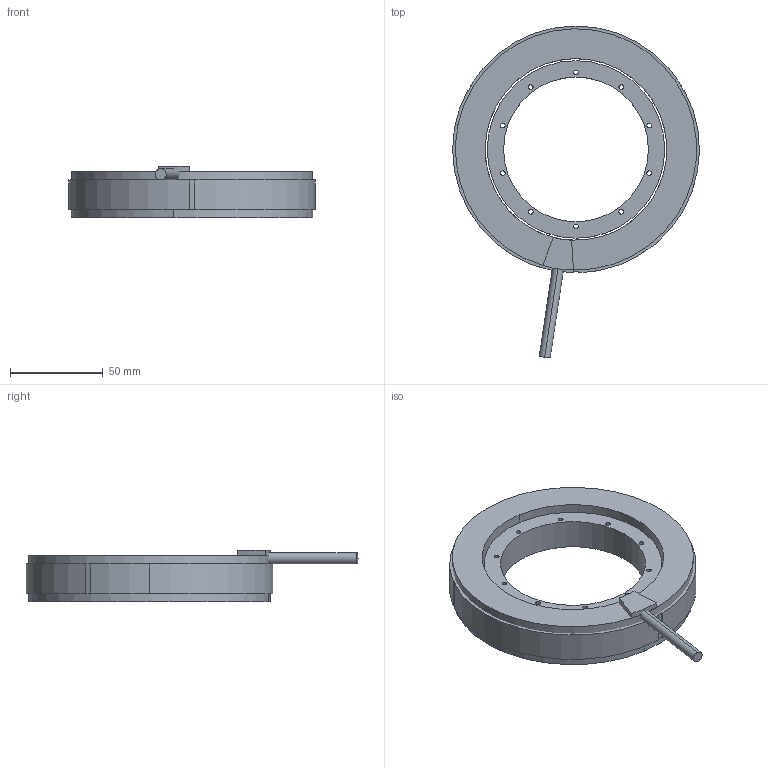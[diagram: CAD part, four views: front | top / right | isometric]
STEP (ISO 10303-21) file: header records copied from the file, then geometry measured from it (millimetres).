
FILE_DESCRIPTION (( 'STEP AP203' ), '1' );
FILE_NAME ('TMXSL133-25 KIT.STEP', '2021-06-21T05:33:14', ( '' ), ( '' ), 'SwSTEP 2.0', 'SolidWorks 2021', '' );
FILE_SCHEMA (( 'CONFIG_CONTROL_DESIGN' ));
Length unit declared in the file: millimetre
Products named in the file (1): TMXSL133-25 KIT
Bounding box: 133 x 178.9 x 28 mm (x, y, z)
Volume: 216410.6 mm3; surface area: 63028 mm2
Topology: 4 solids, 4 shells, 151 faces, 424 edges, 280 vertices
Faces by surface type: cylinder 79, plane 72
Entity records: 5047 total; most frequent: DIRECTION 890, CARTESIAN_POINT 856, ORIENTED_EDGE 848, EDGE_CURVE 424, AXIS2_PLACEMENT_3D 314, VERTEX_POINT 280, VECTOR 262, LINE 262
